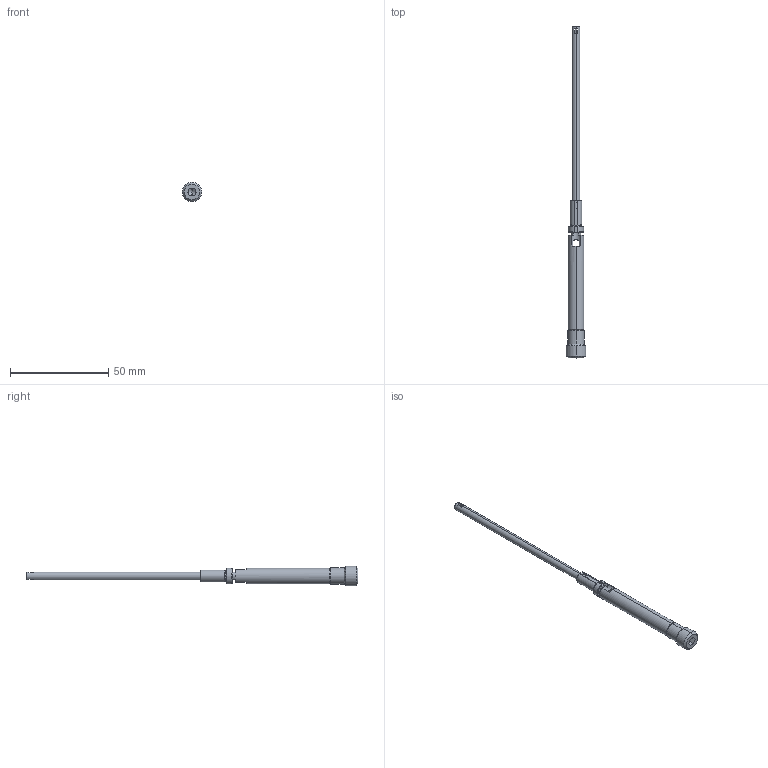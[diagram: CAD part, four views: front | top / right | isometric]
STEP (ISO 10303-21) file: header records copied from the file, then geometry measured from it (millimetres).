
FILE_DESCRIPTION (( 'STEP AP203' ), '1' );
FILE_NAME ('SGDL-608x105.STEP', '2016-12-20T14:18:17', ( 'Balzi' ), ( '' ), 'SwSTEP 2.0', 'SolidWorks 2016', '' );
FILE_SCHEMA (( 'CONFIG_CONTROL_DESIGN' ));
Length unit declared in the file: millimetre
Products named in the file (1): SGDL-608x105
Bounding box: 10 x 169 x 10 mm (x, y, z)
Volume: 3579.5 mm3; surface area: 4375.4 mm2
Topology: 3 solids, 3 shells, 115 faces, 316 edges, 200 vertices
Faces by surface type: plane 50, cylinder 43, cone 18, torus 4
Entity records: 3834 total; most frequent: CARTESIAN_POINT 831, ORIENTED_EDGE 620, DIRECTION 617, EDGE_CURVE 310, AXIS2_PLACEMENT_3D 234, VERTEX_POINT 200, VECTOR 149, LINE 149
